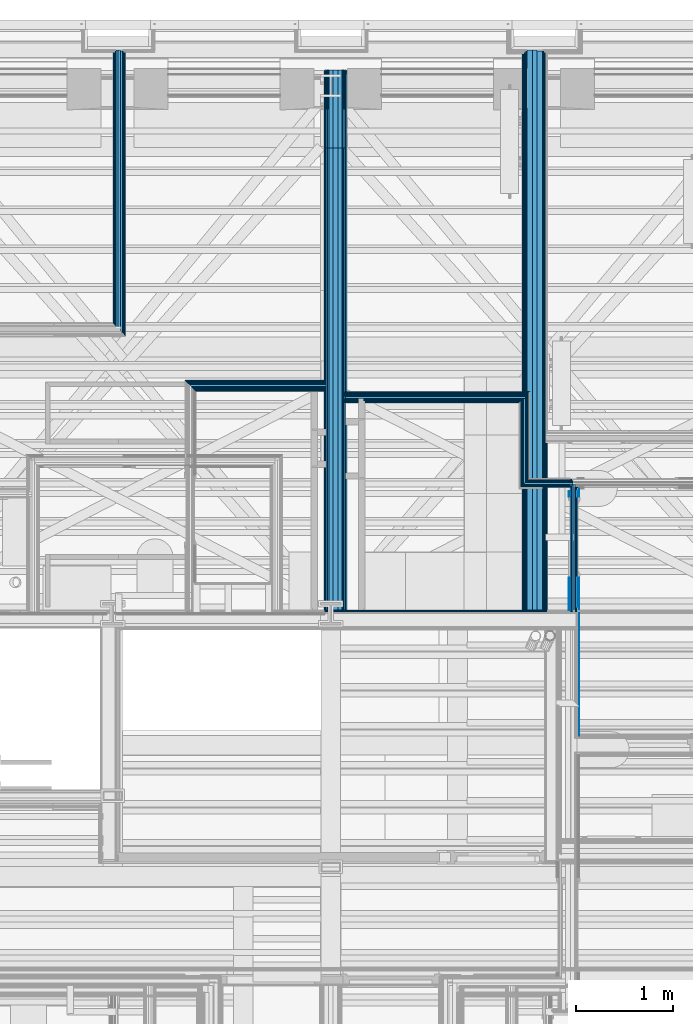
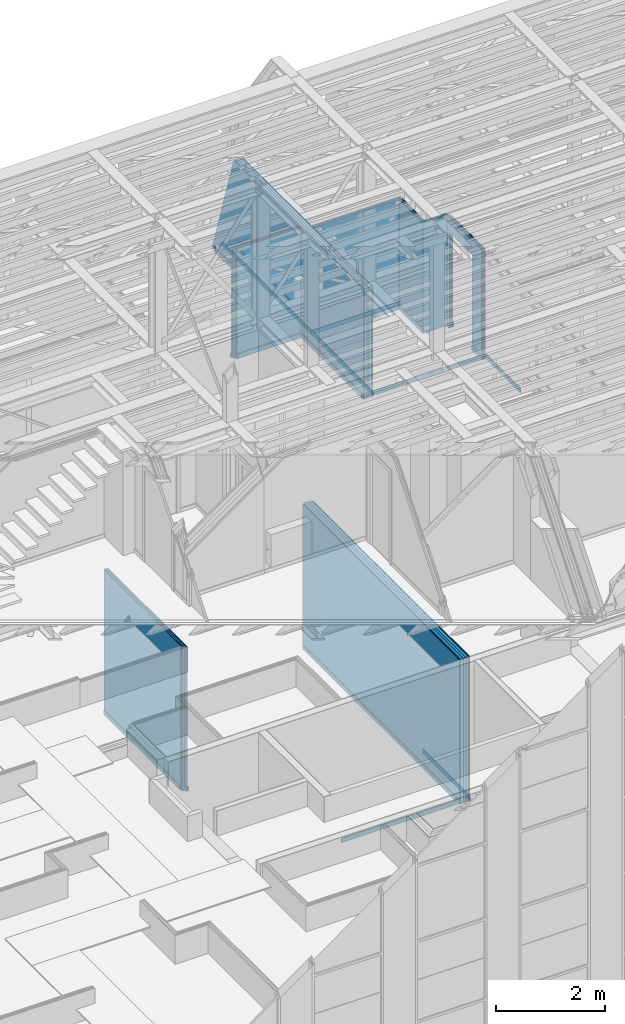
# One storey, part 47 of 183: 60 building element parts, 1 opening, 10 elements without a shape of their own.
"""IFC2X3 building model written with IfcOpenShell, lengths in metres."""

from ifc_helpers import new_model, entity, si_unit, converted_unit, derived_unit, money_unit, direction, frame, frame_2d, origin_with_axes, place, context, subcontext, project, spatial, polyline, rectangle, outline, extrude, clip, halfspace, material, type_object, element, aggregate, save


model = new_model("IFC2X3")

# Units and contexts
model_context = context("Model", 3, precision=1e-05, world=origin_with_axes(), true_north=direction((0.0, 1.0)))
body_context = subcontext(model_context, "Body", "Model", "MODEL_VIEW", scale=1.0)
ifc_project = project(units=[si_unit("LENGTHUNIT", "METRE"), si_unit("AREAUNIT", "SQUARE_METRE"), si_unit("VOLUMEUNIT", "CUBIC_METRE"), si_unit("ABSORBEDDOSEUNIT", "GRAY"), si_unit("AMOUNTOFSUBSTANCEUNIT", "MOLE"), si_unit("DOSEEQUIVALENTUNIT", "SIEVERT"), si_unit("ELECTRICCAPACITANCEUNIT", "FARAD"), si_unit("ELECTRICCHARGEUNIT", "COULOMB"), si_unit("ELECTRICCONDUCTANCEUNIT", "SIEMENS"), si_unit("ELECTRICCURRENTUNIT", "AMPERE"), si_unit("ELECTRICRESISTANCEUNIT", "OHM"), si_unit("ELECTRICVOLTAGEUNIT", "VOLT"), si_unit("ENERGYUNIT", "JOULE"), si_unit("FORCEUNIT", "NEWTON"), si_unit("FREQUENCYUNIT", "HERTZ"), si_unit("ILLUMINANCEUNIT", "LUX"), si_unit("INDUCTANCEUNIT", "HENRY"), si_unit("LUMINOUSFLUXUNIT", "LUMEN"), si_unit("LUMINOUSINTENSITYUNIT", "CANDELA"), si_unit("MAGNETICFLUXDENSITYUNIT", "TESLA"), si_unit("MAGNETICFLUXUNIT", "WEBER"), si_unit("MASSUNIT", "GRAM"), converted_unit("PLANEANGLEUNIT", "degree", entity("IfcReal", 0.0174532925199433), si_unit("PLANEANGLEUNIT", "RADIAN"), dimensions=[0, 0, 0, 0, 0, 0, 0]), si_unit("POWERUNIT", "WATT"), si_unit("PRESSUREUNIT", "PASCAL"), si_unit("RADIOACTIVITYUNIT", "BECQUEREL"), si_unit("SOLIDANGLEUNIT", "STERADIAN"), si_unit("THERMODYNAMICTEMPERATUREUNIT", "KELVIN"), si_unit("TIMEUNIT", "SECOND"), derived_unit("ACCELERATIONUNIT", [(si_unit("LENGTHUNIT", "METRE"), 1), (si_unit("TIMEUNIT", "SECOND"), -2)]), derived_unit("ANGULARVELOCITYUNIT", [(converted_unit("PLANEANGLEUNIT", "degree", entity("IfcReal", 0.0174532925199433), si_unit("PLANEANGLEUNIT", "RADIAN"), dimensions=[0, 0, 0, 0, 0, 0, 0]), 1), (si_unit("TIMEUNIT", "SECOND"), -1)]), derived_unit("CURVATUREUNIT", [(converted_unit("PLANEANGLEUNIT", "degree", entity("IfcReal", 0.0174532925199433), si_unit("PLANEANGLEUNIT", "RADIAN"), dimensions=[0, 0, 0, 0, 0, 0, 0]), 1), (si_unit("LENGTHUNIT", "METRE"), -1)]), derived_unit("DYNAMICVISCOSITYUNIT", [(si_unit("PRESSUREUNIT", "PASCAL"), 1), (si_unit("TIMEUNIT", "SECOND"), 1)]), derived_unit("HEATFLUXDENSITYUNIT", [(si_unit("POWERUNIT", "WATT"), 1), (si_unit("LENGTHUNIT", "METRE"), -2)]), derived_unit("HEATINGVALUEUNIT", [(si_unit("ENERGYUNIT", "JOULE"), 1), (si_unit("MASSUNIT", "GRAM"), -1)]), derived_unit("INTEGERCOUNTRATEUNIT", [(si_unit("TIMEUNIT", "SECOND"), -1)]), derived_unit("IONCONCENTRATIONUNIT", [(si_unit("MASSUNIT", "GRAM"), 1), (si_unit("VOLUMEUNIT", "CUBIC_METRE"), -1)]), derived_unit("ISOTHERMALMOISTURECAPACITYUNIT", [(si_unit("VOLUMEUNIT", "CUBIC_METRE"), 1), (si_unit("MASSUNIT", "GRAM"), -1)]), derived_unit("KINEMATICVISCOSITYUNIT", [(si_unit("AREAUNIT", "SQUARE_METRE"), 1), (si_unit("TIMEUNIT", "SECOND"), -1)]), derived_unit("LINEARFORCEUNIT", [(si_unit("FORCEUNIT", "NEWTON"), 1), (si_unit("LENGTHUNIT", "METRE"), -1)]), derived_unit("LINEARMOMENTUNIT", [(si_unit("FORCEUNIT", "NEWTON"), 1), (si_unit("LENGTHUNIT", "METRE"), -1)]), derived_unit("LINEARSTIFFNESSUNIT", [(si_unit("FORCEUNIT", "NEWTON"), 1), (si_unit("LENGTHUNIT", "METRE"), -1)]), derived_unit("LINEARVELOCITYUNIT", [(si_unit("LENGTHUNIT", "METRE"), 1), (si_unit("TIMEUNIT", "SECOND"), -1)]), derived_unit("LUMINOUSINTENSITYDISTRIBUTIONUNIT", [(si_unit("LUMINOUSINTENSITYUNIT", "CANDELA"), 1), (si_unit("LUMINOUSFLUXUNIT", "LUMEN"), -1)]), derived_unit("MASSDENSITYUNIT", [(si_unit("MASSUNIT", "GRAM"), 1), (si_unit("VOLUMEUNIT", "CUBIC_METRE"), -1)]), derived_unit("MASSFLOWRATEUNIT", [(si_unit("MASSUNIT", "GRAM"), 1), (si_unit("TIMEUNIT", "SECOND"), -1)]), derived_unit("MASSPERLENGTHUNIT", [(si_unit("MASSUNIT", "GRAM"), 1), (si_unit("LENGTHUNIT", "METRE"), -1)]), derived_unit("MODULUSOFELASTICITYUNIT", [(si_unit("FORCEUNIT", "NEWTON"), 1), (si_unit("AREAUNIT", "SQUARE_METRE"), -1)]), derived_unit("MODULUSOFLINEARSUBGRADEREACTIONUNIT", [(si_unit("FORCEUNIT", "NEWTON"), 1), (si_unit("LENGTHUNIT", "METRE"), -2)]), derived_unit("MODULUSOFROTATIONALSUBGRADEREACTIONUNIT", [(si_unit("FORCEUNIT", "NEWTON"), 1), (si_unit("LENGTHUNIT", "METRE"), 1)]), derived_unit("MODULUSOFSUBGRADEREACTIONUNIT", [(si_unit("FORCEUNIT", "NEWTON"), 1), (si_unit("VOLUMEUNIT", "CUBIC_METRE"), -1)]), derived_unit("MOISTUREDIFFUSIVITYUNIT", [(si_unit("VOLUMEUNIT", "CUBIC_METRE"), 1), (si_unit("TIMEUNIT", "SECOND"), -1)]), derived_unit("MOLECULARWEIGHTUNIT", [(si_unit("MASSUNIT", "GRAM"), 1), (si_unit("AMOUNTOFSUBSTANCEUNIT", "MOLE"), -1)]), derived_unit("PLANARFORCEUNIT", [(si_unit("FORCEUNIT", "NEWTON"), 1), (si_unit("LENGTHUNIT", "METRE"), -2)]), derived_unit("ROTATIONALFREQUENCYUNIT", [(si_unit("TIMEUNIT", "SECOND"), -1)]), derived_unit("ROTATIONALMASSUNIT", [(si_unit("MASSUNIT", "GRAM"), 1), (si_unit("LENGTHUNIT", "METRE"), 2)]), derived_unit("ROTATIONALSTIFFNESSUNIT", [(si_unit("FORCEUNIT", "NEWTON"), 1), (si_unit("LENGTHUNIT", "METRE"), 1), (converted_unit("PLANEANGLEUNIT", "degree", entity("IfcReal", 0.0174532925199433), si_unit("PLANEANGLEUNIT", "RADIAN"), dimensions=[0, 0, 0, 0, 0, 0, 0]), -1)]), derived_unit("SECTIONAREAINTEGRALUNIT", [(si_unit("LENGTHUNIT", "METRE"), 5)]), derived_unit("SECTIONMODULUSUNIT", [(si_unit("LENGTHUNIT", "METRE"), 3)]), derived_unit("SHEARMODULUSUNIT", [(si_unit("FORCEUNIT", "NEWTON"), 1), (si_unit("AREAUNIT", "SQUARE_METRE"), -1)]), derived_unit("SOUNDPOWERUNIT", [(si_unit("ENERGYUNIT", "JOULE"), 1), (si_unit("TIMEUNIT", "SECOND"), -1)]), derived_unit("SPECIFICHEATCAPACITYUNIT", [(si_unit("FORCEUNIT", "NEWTON"), 1), (si_unit("MASSUNIT", "GRAM"), -1), (si_unit("THERMODYNAMICTEMPERATUREUNIT", "KELVIN"), -1)]), derived_unit("TEMPERATUREGRADIENTUNIT", [(si_unit("THERMODYNAMICTEMPERATUREUNIT", "KELVIN"), 1), (si_unit("LENGTHUNIT", "METRE"), -1)]), derived_unit("THERMALADMITTANCEUNIT", [(si_unit("POWERUNIT", "WATT"), 1), (si_unit("AREAUNIT", "SQUARE_METRE"), -1), (si_unit("THERMODYNAMICTEMPERATUREUNIT", "KELVIN"), -1)]), derived_unit("THERMALCONDUCTANCEUNIT", [(si_unit("POWERUNIT", "WATT"), 1), (si_unit("LENGTHUNIT", "METRE"), -1), (si_unit("THERMODYNAMICTEMPERATUREUNIT", "KELVIN"), -1)]), derived_unit("THERMALEXPANSIONCOEFFICIENTUNIT", [(si_unit("THERMODYNAMICTEMPERATUREUNIT", "KELVIN"), -1)]), derived_unit("THERMALRESISTANCEUNIT", [(si_unit("AREAUNIT", "SQUARE_METRE"), 1), (si_unit("POWERUNIT", "WATT"), -1)]), derived_unit("THERMALTRANSMITTANCEUNIT", [(si_unit("POWERUNIT", "WATT"), 1), (si_unit("AREAUNIT", "SQUARE_METRE"), -1), (si_unit("THERMODYNAMICTEMPERATUREUNIT", "KELVIN"), -1)]), derived_unit("TORQUEUNIT", [(si_unit("FORCEUNIT", "NEWTON"), 1), (si_unit("LENGTHUNIT", "METRE"), 1)]), derived_unit("VAPORPERMEABILITYUNIT", [(si_unit("MASSUNIT", "GRAM"), 1), (si_unit("TIMEUNIT", "SECOND"), -1)]), derived_unit("VOLUMETRICFLOWRATEUNIT", [(si_unit("VOLUMEUNIT", "CUBIC_METRE"), 1), (si_unit("TIMEUNIT", "SECOND"), -1)]), derived_unit("WARPINGCONSTANTUNIT", [(si_unit("LENGTHUNIT", "METRE"), 6)]), derived_unit("WARPINGMOMENTUNIT", [(si_unit("FORCEUNIT", "NEWTON"), 1), (si_unit("LENGTHUNIT", "METRE"), 2)]), money_unit("GBP")], contexts=[model_context])

# Site, building, storey
site_placement = place(None, origin_with_axes())
site = spatial("IfcSite", under=ifc_project, at=site_placement, Name="Site", CompositionType="ELEMENT")
building_placement = place(site_placement, origin_with_axes())
building = spatial("IfcBuilding", under=site, at=building_placement, Name="Building01", CompositionType="ELEMENT")
storey_placement = place(building_placement, frame((0.0, 0.0, 5.15), z_axis=(0.0, 0.0, 1.0), x_axis=(1.0, 0.0, 0.0)))
storey = spatial("IfcBuildingStorey", under=building, at=storey_placement, Name="1F", CompositionType="ELEMENT", Elevation=5.15)

# Wall, building element part
wall_type_1 = type_object("IfcWallType", Name="SHE_A-Walls_Type03a_BlockworkWall_170mm", PredefinedType="NOTDEFINED")
wall_1_placement = place(storey_placement, frame((17.75, 8.805, 0.0), z_axis=(0.0, 0.0, 1.0), x_axis=(-1.0, 0.0, 0.0)))
wall_1 = element("IfcWall", 1, at=wall_1_placement, inside=storey, type_object=wall_type_1, Name="4B", ObjectType="SHE_A-Walls_Type03a_BlockworkWall_170mm")
ifc_material_1 = material(Name="A_BSUK_Walls_Timber")
building_element_part_1_placement = place(wall_1_placement, origin_with_axes())
building_element_part_1 = element("IfcBuildingElementPart", 2, at=building_element_part_1_placement, material=ifc_material_1, Name="2", context=body_context, shape_type="SweptSolid", body=[
    extrude(rectangle(XDim=2.494547, YDim=0.015, at=frame_2d((3.514142, -0.0225), x_axis=(-1.0, 0.0))), frame((0.0, 0.0, 0.015), z_axis=(0.0, 0.0, 1.0), x_axis=(1.0, 0.0, 0.0)), (0.0, 0.0, 1.0), 0.1),
])
aggregate(wall_1, [building_element_part_1])

# Wall, building element parts
wall_type_2 = type_object("IfcWallType", Name="SHE_A-Walls_Type01c_Partywall_225mm_twin_tall", PredefinedType="NOTDEFINED")
wall_2_placement = place(storey_placement, frame((15.620132, 8.82, 0.0), z_axis=(0.0, 0.0, 1.0), x_axis=(0.0, 1.0, 0.0)))
wall_2 = element("IfcWall", 3, at=wall_2_placement, inside=storey, type_object=wall_type_2, Name="1C", ObjectType="SHE_A-Walls_Type01c_Partywall_225mm_twin_tall")
placement_1 = place(wall_2_placement, origin_with_axes())
building_element_part_2 = element("IfcBuildingElementPart", 4, at=placement_1, material=ifc_material_1, Name="1", context=body_context, shape_type="SweptSolid", body=[
    extrude(rectangle(XDim=1.735, YDim=0.015, at=frame_2d((0.8675, -0.0955), x_axis=(-1.0, 0.0))), frame((0.0, 0.0, 0.015), z_axis=(0.0, 0.0, 1.0), x_axis=(1.0, 0.0, 0.0)), (0.0, 0.0, 1.0), 0.1),
])
ifc_material_2 = material(Name="A_BSUK_WallInternal_Finishes_Plasterboard")
building_element_part_3 = element("IfcBuildingElementPart", 5, at=placement_1, material=ifc_material_2, Name="3", context=body_context, shape_type="SweptSolid", body=[
    extrude(rectangle(XDim=5.747, YDim=0.015, at=frame_2d((2.8735, -0.0805), x_axis=(-1.0, 0.0))), origin_with_axes(), (0.0, 0.0, 1.0), 3.24),
])
building_element_part_4 = element("IfcBuildingElementPart", 6, at=placement_1, material=ifc_material_2, Name="4", context=body_context, shape_type="SweptSolid", body=[
    extrude(rectangle(XDim=5.762, YDim=0.015, at=frame_2d((2.881, -0.0655), x_axis=(-1.0, 0.0))), origin_with_axes(), (0.0, 0.0, 1.0), 3.24),
])
ifc_material_3 = material(Name="Air Cavity")
building_element_part_5 = element("IfcBuildingElementPart", 7, at=placement_1, material=ifc_material_3, Name="5", context=body_context, shape_type="SweptSolid", body=[
    extrude(rectangle(XDim=5.762, YDim=0.058, at=frame_2d((2.881, -0.029), x_axis=(-1.0, 0.0))), origin_with_axes(), (0.0, 0.0, 1.0), 3.24),
])
ifc_material_4 = material(Name="A_BSUK_Insulation")
building_element_part_6 = element("IfcBuildingElementPart", 8, at=placement_1, material=ifc_material_4, Name="6", context=body_context, shape_type="SweptSolid", body=[
    extrude(rectangle(XDim=5.774, YDim=0.05, at=frame_2d((2.887, 0.025), x_axis=(-1.0, 0.0))), origin_with_axes(), (0.0, 0.0, 1.0), 3.24),
])
building_element_part_7 = element("IfcBuildingElementPart", 9, at=placement_1, material=ifc_material_3, Name="7", context=body_context, shape_type="SweptSolid", body=[
    extrude(rectangle(XDim=5.774, YDim=0.057, at=frame_2d((2.887, 0.0785), x_axis=(-1.0, 0.0))), origin_with_axes(), (0.0, 0.0, 1.0), 3.24),
])
building_element_part_8 = element("IfcBuildingElementPart", 10, at=placement_1, material=ifc_material_2, Name="8", context=body_context, shape_type="SweptSolid", body=[
    extrude(rectangle(XDim=5.762, YDim=0.015, at=frame_2d((2.881, 0.1145), x_axis=(-1.0, 0.0))), origin_with_axes(), (0.0, 0.0, 1.0), 3.24),
])
building_element_part_9 = element("IfcBuildingElementPart", 11, at=placement_1, material=ifc_material_2, Name="9", context=body_context, shape_type="SweptSolid", body=[
    extrude(rectangle(XDim=5.747, YDim=0.015, at=frame_2d((2.8735, 0.1295), x_axis=(-1.0, 0.0))), origin_with_axes(), (0.0, 0.0, 1.0), 3.24),
])
building_element_part_10 = element("IfcBuildingElementPart", 12, at=placement_1, material=ifc_material_1, Name="10", context=body_context, shape_type="SweptSolid", body=[
    extrude(rectangle(XDim=5.717, YDim=0.015, at=frame_2d((2.8735, 0.1445), x_axis=(-1.0, 0.0))), frame((0.0, 0.0, 0.015), z_axis=(0.0, 0.0, 1.0), x_axis=(1.0, 0.0, 0.0)), (0.0, 0.0, 1.0), 0.1),
])
aggregate(wall_2, [building_element_part_2, building_element_part_3, building_element_part_4, building_element_part_5, building_element_part_6, building_element_part_7, building_element_part_8, building_element_part_9, building_element_part_10])

wall_type_3 = type_object("IfcWallType", Name="SHE_A-Walls_Type05a_Partition_95mm_tall", PredefinedType="NOTDEFINED")
wall_3_placement = place(storey_placement, frame((11.34, 11.728124, 0.0), z_axis=(0.0, 0.0, 1.0), x_axis=(0.0, 1.0, 0.0)))
wall_3 = element("IfcWall", 13, at=wall_3_placement, inside=storey, type_object=wall_type_3, Name="5A", ObjectType="SHE_A-Walls_Type05a_Partition_95mm_tall")
placement_2 = place(wall_3_placement, origin_with_axes())
building_element_part_11 = element("IfcBuildingElementPart", 14, at=placement_2, material=ifc_material_1, Name="1", context=body_context, shape_type="SweptSolid", body=[
    extrude(outline(polyline([(2.838876, -0.035), (-0.06, -0.035), (-0.075, -0.05), (2.838876, -0.05), (2.838876, -0.035)])), frame((0.0, 0.0, 0.015), z_axis=(0.0, 0.0, 1.0), x_axis=(1.0, 0.0, 0.0)), (0.0, 0.0, 1.0), 0.1),
])
building_element_part_12 = element("IfcBuildingElementPart", 15, at=placement_2, material=ifc_material_2, Name="2", context=body_context, shape_type="SweptSolid", body=[
    extrude(outline(polyline([(2.853876, -0.023), (-0.048, -0.023), (-0.06, -0.035), (2.853876, -0.035), (2.853876, -0.023)])), origin_with_axes(), (0.0, 0.0, 1.0), 3.24),
])
building_element_part_13 = element("IfcBuildingElementPart", 16, at=placement_2, material=ifc_material_3, Name="3", context=body_context, shape_type="SweptSolid", body=[
    extrude(outline(polyline([(2.853876, 0.0), (-0.025, 0.0), (-0.048, -0.023), (2.853876, -0.023), (2.853876, 0.0)])), origin_with_axes(), (0.0, 0.0, 1.0), 3.24),
])
building_element_part_14 = element("IfcBuildingElementPart", 17, at=placement_2, material=ifc_material_4, Name="4", context=body_context, shape_type="SweptSolid", body=[
    extrude(rectangle(XDim=2.865876, YDim=0.025, at=frame_2d((1.432938, 0.0125), x_axis=(-1.0, 0.0))), origin_with_axes(), (0.0, 0.0, 1.0), 3.24),
])
building_element_part_15 = element("IfcBuildingElementPart", 18, at=placement_2, material=ifc_material_3, Name="5", context=body_context, shape_type="SweptSolid", body=[
    extrude(rectangle(XDim=2.865876, YDim=0.023, at=frame_2d((1.432938, 0.0365), x_axis=(-1.0, 0.0))), origin_with_axes(), (0.0, 0.0, 1.0), 3.24),
])
building_element_part_16 = element("IfcBuildingElementPart", 19, at=placement_2, material=ifc_material_2, Name="6", context=body_context, shape_type="SweptSolid", body=[
    extrude(outline(polyline([(2.853876, 0.06), (0.035, 0.06), (0.023, 0.048), (2.853876, 0.048), (2.853876, 0.06)])), origin_with_axes(), (0.0, 0.0, 1.0), 3.24),
])
building_element_part_17 = element("IfcBuildingElementPart", 20, at=placement_2, material=ifc_material_1, Name="7", context=body_context, shape_type="SweptSolid", body=[
    extrude(outline(polyline([(2.838876, 0.075), (0.05, 0.075), (0.035, 0.06), (2.838876, 0.06), (2.838876, 0.075)])), frame((0.0, 0.0, 0.015), z_axis=(0.0, 0.0, 1.0), x_axis=(1.0, 0.0, 0.0)), (0.0, 0.0, 1.0), 0.1),
])
aggregate(wall_3, [building_element_part_11, building_element_part_12, building_element_part_13, building_element_part_14, building_element_part_15, building_element_part_16, building_element_part_17])

wall_type_4 = type_object("IfcWallType", Name="SHE_A-Walls_Type05b_Partition_80mm", PredefinedType="NOTDEFINED")
wall_4_placement = place(storey_placement, frame((13.45, 11.156849, 9.78), z_axis=(0.0, 0.0, 1.0), x_axis=(-1.0, 0.0, 0.0)))
wall_4 = element("IfcWall", 21, at=wall_4_placement, inside=storey, type_object=wall_type_4, Name="5B", ObjectType="SHE_A-Walls_Type05b_Partition_80mm")
placement_3 = place(wall_4_placement, origin_with_axes())
building_element_part_18 = element("IfcBuildingElementPart", 22, at=placement_3, material=ifc_material_1, Name="1", context=body_context, shape_type="SweptSolid", body=[
    extrude(outline(polyline([(1.432619, -0.027), (0.015, -0.027), (0.015, -0.042), (1.447619, -0.042), (1.432619, -0.027)])), frame((0.0, 0.0, 0.015), z_axis=(0.0, 0.0, 1.0), x_axis=(1.0, 0.0, 0.0)), (0.0, 0.0, 1.0), 0.1),
])
building_element_part_19 = element("IfcBuildingElementPart", 23, at=placement_3, material=ifc_material_2, Name="2", context=body_context, shape_type="SweptSolid", body=[
    extrude(outline(polyline([(1.417619, -0.012), (0.0, -0.012), (0.0, -0.027), (1.432619, -0.027), (1.417619, -0.012)])), origin_with_axes(), (0.0, 0.0, 1.0), 2.468),
])
building_element_part_20 = element("IfcBuildingElementPart", 24, at=placement_3, material=ifc_material_3, Name="3", context=body_context, shape_type="SweptSolid", body=[
    extrude(outline(polyline([(1.405619, 0.0), (0.0, 0.0), (0.0, -0.012), (1.417619, -0.012), (1.405619, 0.0)])), origin_with_axes(), (0.0, 0.0, 1.0), 2.468),
])
building_element_part_21 = element("IfcBuildingElementPart", 25, at=placement_3, material=ifc_material_4, Name="4", context=body_context, shape_type="SweptSolid", body=[
    extrude(outline(polyline([(1.380619, 0.025), (0.0, 0.025), (0.0, 0.0), (1.405619, 0.0), (1.380619, 0.025)])), origin_with_axes(), (0.0, 0.0, 1.0), 2.468),
])
building_element_part_22 = element("IfcBuildingElementPart", 26, at=placement_3, material=ifc_material_3, Name="5", context=body_context, shape_type="SweptSolid", body=[
    extrude(outline(polyline([(1.367619, 0.038), (0.0, 0.038), (0.0, 0.025), (1.380619, 0.025), (1.367619, 0.038)])), origin_with_axes(), (0.0, 0.0, 1.0), 2.468),
])
building_element_part_23 = element("IfcBuildingElementPart", 27, at=placement_3, material=ifc_material_2, Name="6", context=body_context, shape_type="SweptSolid", body=[
    extrude(outline(polyline([(1.352619, 0.053), (0.0, 0.053), (0.0, 0.038), (1.367619, 0.038), (1.352619, 0.053)])), origin_with_axes(), (0.0, 0.0, 1.0), 2.468),
])
building_element_part_24 = element("IfcBuildingElementPart", 28, at=placement_3, material=ifc_material_1, Name="7", context=body_context, shape_type="SweptSolid", body=[
    extrude(outline(polyline([(1.337619, 0.068), (0.015, 0.068), (0.015, 0.053), (1.352619, 0.053), (1.337619, 0.068)])), frame((0.0, 0.0, 0.015), z_axis=(0.0, 0.0, 1.0), x_axis=(1.0, 0.0, 0.0)), (0.0, 0.0, 1.0), 0.1),
])
aggregate(wall_4, [building_element_part_18, building_element_part_19, building_element_part_20, building_element_part_21, building_element_part_22, building_element_part_23, building_element_part_24])

wall_5_placement = place(storey_placement, frame((15.476998, 10.126939, 9.78), z_axis=(0.0, 0.0, 1.0), x_axis=(1.0, 0.0, 0.0)))
wall_5 = element("IfcWall", 29, at=wall_5_placement, inside=storey, type_object=wall_type_4, Name="5B", ObjectType="SHE_A-Walls_Type05b_Partition_80mm")
placement_4 = place(wall_5_placement, origin_with_axes())
building_element_part_25 = element("IfcBuildingElementPart", 30, at=placement_4, material=ifc_material_2, Name="2", context=body_context, shape_type="SweptSolid", body=[
    extrude(outline(polyline([(0.481442, -0.012), (-0.012, -0.012), (-0.027, -0.027), (0.481442, -0.027), (0.481442, -0.012)])), origin_with_axes(), (0.0, 0.0, 1.0), 2.468),
])
building_element_part_26 = element("IfcBuildingElementPart", 31, at=placement_4, material=ifc_material_3, Name="3", context=body_context, shape_type="SweptSolid", body=[
    extrude(outline(polyline([(0.481442, 0.0), (0.0, 0.0), (-0.012, -0.012), (0.481442, -0.012), (0.481442, 0.0)])), origin_with_axes(), (0.0, 0.0, 1.0), 2.468),
])
building_element_part_27 = element("IfcBuildingElementPart", 32, at=placement_4, material=ifc_material_4, Name="4", context=body_context, shape_type="SweptSolid", body=[
    extrude(outline(polyline([(0.509442, 0.025), (0.025, 0.025), (0.0, 0.0), (0.509442, 0.0), (0.509442, 0.025)])), origin_with_axes(), (0.0, 0.0, 1.0), 2.468),
])
building_element_part_28 = element("IfcBuildingElementPart", 33, at=placement_4, material=ifc_material_3, Name="5", context=body_context, shape_type="SweptSolid", body=[
    extrude(outline(polyline([(0.509442, 0.038), (0.038, 0.038), (0.025, 0.025), (0.509442, 0.025), (0.509442, 0.038)])), origin_with_axes(), (0.0, 0.0, 1.0), 2.468),
])
building_element_part_29 = element("IfcBuildingElementPart", 34, at=placement_4, material=ifc_material_2, Name="6", context=body_context, shape_type="SweptSolid", body=[
    extrude(outline(polyline([(0.496442, 0.053), (0.053, 0.053), (0.038, 0.038), (0.496442, 0.038), (0.496442, 0.053)])), origin_with_axes(), (0.0, 0.0, 1.0), 2.468),
])
aggregate(wall_5, [building_element_part_25, building_element_part_26, building_element_part_27, building_element_part_28, building_element_part_29])

wall_type_5 = type_object("IfcWallType", Name="SHE_A-Walls_Type01d_Partywall_200mm_twin", PredefinedType="NOTDEFINED")
wall_6_placement = place(storey_placement, frame((13.575, 8.82, 9.78), z_axis=(0.0, 0.0, 1.0), x_axis=(0.0, 1.0, 0.0)))
wall_6 = element("IfcWall", 35, at=wall_6_placement, inside=storey, type_object=wall_type_5, Name="1D", ObjectType="SHE_A-Walls_Type01d_Partywall_200mm_twin")
placement_5 = place(wall_6_placement, origin_with_axes())
building_element_part_30 = element("IfcBuildingElementPart", 36, at=placement_5, material=ifc_material_1, Name="1", context=body_context, shape_type="Clipping", body=[
    clip(extrude(rectangle(XDim=5.561784, YDim=0.015, at=frame_2d((2.780892, -0.0825), x_axis=(-1.0, 0.0))), frame((0.0, 0.0, 0.015), z_axis=(0.0, 0.0, 1.0), x_axis=(1.0, 0.0, 0.0)), (0.0, 0.0, 1.0), 0.1), halfspace(frame((5.035089, 0.0, 1.636), z_axis=(-0.95105652, 0.0, -0.30901699), x_axis=(0.0, -1.0, 0.0)), True)),
])
building_element_part_31 = element("IfcBuildingElementPart", 37, at=placement_5, material=ifc_material_2, Name="2", context=body_context, shape_type="Clipping", body=[
    clip(extrude(rectangle(XDim=5.566658, YDim=0.015, at=frame_2d((2.783329, -0.0675), x_axis=(-1.0, 0.0))), origin_with_axes(), (0.0, 0.0, 1.0), 2.468), halfspace(frame((5.035089, 0.0, 1.636), z_axis=(-0.95105652, 0.0, -0.30901699), x_axis=(0.0, -1.0, 0.0)), True)),
])
building_element_part_32 = element("IfcBuildingElementPart", 38, at=placement_5, material=ifc_material_2, Name="3", context=body_context, shape_type="Clipping", body=[
    clip(extrude(rectangle(XDim=5.566658, YDim=0.015, at=frame_2d((2.783329, -0.0525), x_axis=(-1.0, 0.0))), origin_with_axes(), (0.0, 0.0, 1.0), 2.468), halfspace(frame((5.035089, 0.0, 1.636), z_axis=(-0.95105652, 0.0, -0.30901699), x_axis=(0.0, -1.0, 0.0)), True)),
])
building_element_part_33 = element("IfcBuildingElementPart", 39, at=placement_5, material=ifc_material_3, Name="4", context=body_context, shape_type="Clipping", body=[
    clip(extrude(rectangle(XDim=5.566658, YDim=0.045, at=frame_2d((2.783329, -0.0225), x_axis=(-1.0, 0.0))), origin_with_axes(), (0.0, 0.0, 1.0), 2.468), halfspace(frame((5.035089, 0.0, 1.636), z_axis=(-0.95105652, 0.0, -0.30901699), x_axis=(0.0, -1.0, 0.0)), True)),
])
building_element_part_34 = element("IfcBuildingElementPart", 40, at=placement_5, material=ifc_material_4, Name="5", context=body_context, shape_type="Clipping", body=[
    clip(extrude(rectangle(XDim=5.566658, YDim=0.05, at=frame_2d((2.783329, 0.025), x_axis=(-1.0, 0.0))), origin_with_axes(), (0.0, 0.0, 1.0), 2.468), halfspace(frame((5.035089, 0.0, 1.636), z_axis=(-0.95105652, 0.0, -0.30901699), x_axis=(0.0, -1.0, 0.0)), True)),
])
building_element_part_35 = element("IfcBuildingElementPart", 41, at=placement_5, material=ifc_material_3, Name="6", context=body_context, shape_type="Clipping", body=[
    clip(extrude(rectangle(XDim=5.566658, YDim=0.045, at=frame_2d((2.783329, 0.0725), x_axis=(-1.0, 0.0))), origin_with_axes(), (0.0, 0.0, 1.0), 2.468), halfspace(frame((5.035089, 0.0, 1.636), z_axis=(-0.95105652, 0.0, -0.30901699), x_axis=(0.0, -1.0, 0.0)), True)),
])
building_element_part_36 = element("IfcBuildingElementPart", 42, at=placement_5, material=ifc_material_2, Name="7", context=body_context, shape_type="Clipping", body=[
    clip(extrude(rectangle(XDim=5.566658, YDim=0.015, at=frame_2d((2.783329, 0.1025), x_axis=(-1.0, 0.0))), origin_with_axes(), (0.0, 0.0, 1.0), 2.468), halfspace(frame((5.035089, 0.0, 1.636), z_axis=(-0.95105652, 0.0, -0.30901699), x_axis=(0.0, -1.0, 0.0)), True)),
])
building_element_part_37 = element("IfcBuildingElementPart", 43, at=placement_5, material=ifc_material_2, Name="8", context=body_context, shape_type="Clipping", body=[
    clip(extrude(rectangle(XDim=5.566658, YDim=0.015, at=frame_2d((2.783329, 0.1175), x_axis=(-1.0, 0.0))), origin_with_axes(), (0.0, 0.0, 1.0), 2.468), halfspace(frame((5.035089, 0.0, 1.636), z_axis=(-0.95105652, 0.0, -0.30901699), x_axis=(0.0, -1.0, 0.0)), True)),
])
building_element_part_38 = element("IfcBuildingElementPart", 44, at=placement_5, material=ifc_material_1, Name="9", context=body_context, shape_type="SweptSolid", body=[
    extrude(rectangle(XDim=2.244677, YDim=0.015, at=frame_2d((1.161511, 0.1325), x_axis=(-1.0, 0.0))), frame((0.0, 0.0, 0.015), z_axis=(0.0, 0.0, 1.0), x_axis=(1.0, 0.0, 0.0)), (0.0, 0.0, 1.0), 0.1),
])
building_element_part_39 = element("IfcBuildingElementPart", 45, at=placement_5, material=ifc_material_1, Name="10", context=body_context, shape_type="Clipping", body=[
    clip(extrude(rectangle(XDim=5.561784, YDim=0.015, at=frame_2d((2.780892, 0.1325), x_axis=(-1.0, 0.0))), frame((0.0, 0.0, 0.015), z_axis=(0.0, 0.0, 1.0), x_axis=(1.0, 0.0, 0.0)), (0.0, 0.0, 1.0), 0.1), halfspace(frame((5.035089, 0.0, 1.636), z_axis=(-0.95105652, 0.0, -0.30901699), x_axis=(0.0, -1.0, 0.0)), True)),
])
aggregate(wall_6, [building_element_part_30, building_element_part_31, building_element_part_32, building_element_part_33, building_element_part_34, building_element_part_35, building_element_part_36, building_element_part_37, building_element_part_38, building_element_part_39])

# Wall, opening, building element parts
wall_7_placement = place(storey_placement, frame((16.01144, 8.82, 9.78), z_axis=(0.0, 0.0, 1.0), x_axis=(0.0, 1.0, 0.0)))
wall_7 = element("IfcWall", 46, at=wall_7_placement, inside=storey, type_object=wall_type_4, Name="5B", ObjectType="SHE_A-Walls_Type05b_Partition_80mm")
opening_placement = place(wall_7_placement, frame((0.349939, -0.042, 0.0), z_axis=(0.0, 0.0, 1.0), x_axis=(1.0, 0.0, 0.0)))
element("IfcOpeningElement", 47, at=opening_placement, cuts=wall_7, Name="Opening", ObjectType="Opening", context=body_context, shape_type="SweptSolid", body=[
    extrude(rectangle(XDim=2.142, YDim=0.834, at=frame_2d((-0.417, 1.071), x_axis=(0.0, -1.0))), frame((0.0, 0.0, 0.0), z_axis=(0.0, 1.0, 0.0), x_axis=(-1.0, 0.0, 0.0)), (0.0, 0.0, 1.0), 0.11),
])
placement_6 = place(wall_7_placement, origin_with_axes())
building_element_part_40 = element("IfcBuildingElementPart", 48, at=placement_6, material=ifc_material_1, Name="1", context=body_context, shape_type="SweptSolid", body=[
    extrude(rectangle(XDim=1.185147, YDim=0.015, at=frame_2d((0.644569, -0.0345), x_axis=(-1.0, 0.0))), frame((0.0, 0.0, 0.015), z_axis=(0.0, 0.0, 1.0), x_axis=(1.0, 0.0, 0.0)), (0.0, 0.0, 1.0), 0.1),
])
building_element_part_41 = element("IfcBuildingElementPart", 49, at=placement_6, material=ifc_material_1, Name="2", context=body_context, shape_type="SweptSolid", body=[
    extrude(rectangle(XDim=2.535024, YDim=0.015, at=frame_2d((-0.002573, -0.0345), x_axis=(-1.0, 0.0))), frame((0.0, 0.0, 0.015), z_axis=(0.0, 0.0, 1.0), x_axis=(1.0, 0.0, 0.0)), (0.0, 0.0, 1.0), 0.1),
])
building_element_part_42 = element("IfcBuildingElementPart", 50, at=placement_6, material=ifc_material_2, Name="3", context=body_context, shape_type="SweptSolid", body=[
    extrude(rectangle(XDim=1.279939, YDim=0.015, at=frame_2d((0.63997, -0.0195), x_axis=(-1.0, 0.0))), origin_with_axes(), (0.0, 0.0, 1.0), 2.468),
])
building_element_part_43 = element("IfcBuildingElementPart", 51, at=placement_6, material=ifc_material_3, Name="4", context=body_context, shape_type="SweptSolid", body=[
    extrude(rectangle(XDim=1.279939, YDim=0.012, at=frame_2d((0.63997, -0.006), x_axis=(-1.0, 0.0))), origin_with_axes(), (0.0, 0.0, 1.0), 2.468),
])
building_element_part_44 = element("IfcBuildingElementPart", 52, at=placement_6, material=ifc_material_4, Name="5", context=body_context, shape_type="SweptSolid", body=[
    extrude(rectangle(XDim=1.306939, YDim=0.025, at=frame_2d((0.65347, 0.0125), x_axis=(-1.0, 0.0))), origin_with_axes(), (0.0, 0.0, 1.0), 2.468),
])
building_element_part_45 = element("IfcBuildingElementPart", 53, at=placement_6, material=ifc_material_3, Name="6", context=body_context, shape_type="SweptSolid", body=[
    extrude(rectangle(XDim=1.306939, YDim=0.013, at=frame_2d((0.65347, 0.0315), x_axis=(-1.0, 0.0))), origin_with_axes(), (0.0, 0.0, 1.0), 2.468),
])
building_element_part_46 = element("IfcBuildingElementPart", 54, at=placement_6, material=ifc_material_2, Name="7", context=body_context, shape_type="SweptSolid", body=[
    extrude(rectangle(XDim=1.294939, YDim=0.015, at=frame_2d((0.64747, 0.0455), x_axis=(-1.0, 0.0))), origin_with_axes(), (0.0, 0.0, 1.0), 2.468),
])
building_element_part_47 = element("IfcBuildingElementPart", 55, at=placement_6, material=ifc_material_1, Name="8", context=body_context, shape_type="SweptSolid", body=[
    extrude(rectangle(XDim=1.222142, YDim=0.015, at=frame_2d((0.626071, 0.0605), x_axis=(-1.0, 0.0))), frame((0.0, 0.0, 0.015), z_axis=(0.0, 0.0, 1.0), x_axis=(1.0, 0.0, 0.0)), (0.0, 0.0, 1.0), 0.1),
])
aggregate(wall_7, [building_element_part_40, building_element_part_41, building_element_part_42, building_element_part_43, building_element_part_44, building_element_part_45, building_element_part_46, building_element_part_47])

# Wall, building element part
wall_8_placement = place(storey_placement, frame((9.215, 8.665, 9.78), z_axis=(0.0, 0.0, 1.0), x_axis=(1.0, 0.0, 0.0)))
wall_8 = element("IfcWall", 56, at=wall_8_placement, inside=storey, type_object=wall_type_1, Name="4B", ObjectType="SHE_A-Walls_Type03a_BlockworkWall_170mm")
building_element_part_48_placement = place(wall_8_placement, origin_with_axes())
building_element_part_48 = element("IfcBuildingElementPart", 57, at=building_element_part_48_placement, material=ifc_material_1, Name="7", context=body_context, shape_type="SweptSolid", body=[
    extrude(rectangle(XDim=2.29344, YDim=0.015, at=frame_2d((5.59672, 0.1625), x_axis=(-1.0, 0.0))), frame((0.0, 0.0, 0.015), z_axis=(0.0, 0.0, 1.0), x_axis=(1.0, 0.0, 0.0)), (0.0, 0.0, 1.0), 0.1),
])
aggregate(wall_8, [building_element_part_48])

# Wall, building element parts
wall_9_placement = place(storey_placement, frame((15.501998, 11.036789, 9.78), z_axis=(0.0, 0.0, 1.0), x_axis=(-1.0, 0.0, 0.0)))
wall_9 = element("IfcWall", 58, at=wall_9_placement, inside=storey, type_object=wall_type_4, Name="5B", ObjectType="SHE_A-Walls_Type05b_Partition_80mm")
placement_7 = place(wall_9_placement, origin_with_axes())
building_element_part_49 = element("IfcBuildingElementPart", 59, at=placement_7, material=ifc_material_1, Name="1", context=body_context, shape_type="SweptSolid", body=[
    extrude(outline(polyline([(1.851998, -0.027), (-0.028, -0.027), (-0.043, -0.042), (1.851998, -0.042), (1.851998, -0.027)])), frame((0.0, 0.0, 0.015), z_axis=(0.0, 0.0, 1.0), x_axis=(1.0, 0.0, 0.0)), (0.0, 0.0, 1.0), 0.1),
])
building_element_part_50 = element("IfcBuildingElementPart", 60, at=placement_7, material=ifc_material_2, Name="2", context=body_context, shape_type="SweptSolid", body=[
    extrude(outline(polyline([(1.851998, -0.012), (-0.013, -0.012), (-0.028, -0.027), (1.851998, -0.027), (1.851998, -0.012)])), origin_with_axes(), (0.0, 0.0, 1.0), 2.468),
])
building_element_part_51 = element("IfcBuildingElementPart", 61, at=placement_7, material=ifc_material_3, Name="3", context=body_context, shape_type="SweptSolid", body=[
    extrude(outline(polyline([(1.851998, 0.0), (-0.001, 0.0), (-0.013, -0.012), (1.851998, -0.012), (1.851998, 0.0)])), origin_with_axes(), (0.0, 0.0, 1.0), 2.468),
])
building_element_part_52 = element("IfcBuildingElementPart", 62, at=placement_7, material=ifc_material_4, Name="4", context=body_context, shape_type="SweptSolid", body=[
    extrude(rectangle(XDim=1.851998, YDim=0.025, at=frame_2d((0.925999, 0.0125), x_axis=(-1.0, 0.0))), origin_with_axes(), (0.0, 0.0, 1.0), 2.468),
])
building_element_part_53 = element("IfcBuildingElementPart", 63, at=placement_7, material=ifc_material_3, Name="5", context=body_context, shape_type="SweptSolid", body=[
    extrude(rectangle(XDim=1.851998, YDim=0.013, at=frame_2d((0.925999, 0.0315), x_axis=(-1.0, 0.0))), origin_with_axes(), (0.0, 0.0, 1.0), 2.468),
])
building_element_part_54 = element("IfcBuildingElementPart", 64, at=placement_7, material=ifc_material_2, Name="6", context=body_context, shape_type="SweptSolid", body=[
    extrude(outline(polyline([(1.851998, 0.053), (0.052, 0.053), (0.037, 0.038), (1.851998, 0.038), (1.851998, 0.053)])), origin_with_axes(), (0.0, 0.0, 1.0), 2.468),
])
building_element_part_55 = element("IfcBuildingElementPart", 65, at=placement_7, material=ifc_material_1, Name="7", context=body_context, shape_type="SweptSolid", body=[
    extrude(outline(polyline([(1.851998, 0.068), (0.067, 0.068), (0.052, 0.053), (1.851998, 0.053), (1.851998, 0.068)])), frame((0.0, 0.0, 0.015), z_axis=(0.0, 0.0, 1.0), x_axis=(1.0, 0.0, 0.0)), (0.0, 0.0, 1.0), 0.1),
])
aggregate(wall_9, [building_element_part_49, building_element_part_50, building_element_part_51, building_element_part_52, building_element_part_53, building_element_part_54, building_element_part_55])

wall_10_placement = place(storey_placement, frame((15.476998, 11.011789, 9.78), z_axis=(0.0, 0.0, 1.0), x_axis=(0.0, -1.0, 0.0)))
wall_10 = element("IfcWall", 66, at=wall_10_placement, inside=storey, type_object=wall_type_4, Name="5B", ObjectType="SHE_A-Walls_Type05b_Partition_80mm")
placement_8 = place(wall_10_placement, origin_with_axes())
building_element_part_56 = element("IfcBuildingElementPart", 67, at=placement_8, material=ifc_material_2, Name="2", context=body_context, shape_type="SweptSolid", body=[
    extrude(outline(polyline([(0.896849, -0.012), (0.013, -0.012), (0.028, -0.027), (0.911849, -0.027), (0.896849, -0.012)])), origin_with_axes(), (0.0, 0.0, 1.0), 2.468),
])
building_element_part_57 = element("IfcBuildingElementPart", 68, at=placement_8, material=ifc_material_3, Name="3", context=body_context, shape_type="SweptSolid", body=[
    extrude(outline(polyline([(0.884849, 0.0), (0.001, 0.0), (0.013, -0.012), (0.896849, -0.012), (0.884849, 0.0)])), origin_with_axes(), (0.0, 0.0, 1.0), 2.468),
])
building_element_part_58 = element("IfcBuildingElementPart", 69, at=placement_8, material=ifc_material_4, Name="4", context=body_context, shape_type="SweptSolid", body=[
    extrude(outline(polyline([(0.859849, 0.025), (0.0, 0.025), (0.0, 0.0), (0.884849, 0.0), (0.859849, 0.025)])), origin_with_axes(), (0.0, 0.0, 1.0), 2.468),
])
building_element_part_59 = element("IfcBuildingElementPart", 70, at=placement_8, material=ifc_material_3, Name="5", context=body_context, shape_type="SweptSolid", body=[
    extrude(outline(polyline([(0.846849, 0.038), (0.0, 0.038), (0.0, 0.025), (0.859849, 0.025), (0.846849, 0.038)])), origin_with_axes(), (0.0, 0.0, 1.0), 2.468),
])
building_element_part_60 = element("IfcBuildingElementPart", 71, at=placement_8, material=ifc_material_2, Name="6", context=body_context, shape_type="SweptSolid", body=[
    extrude(outline(polyline([(0.831849, 0.053), (-0.052, 0.053), (-0.037, 0.038), (0.846849, 0.038), (0.831849, 0.053)])), origin_with_axes(), (0.0, 0.0, 1.0), 2.468),
])
aggregate(wall_10, [building_element_part_56, building_element_part_57, building_element_part_58, building_element_part_59, building_element_part_60])

save(model, "model.ifc")
